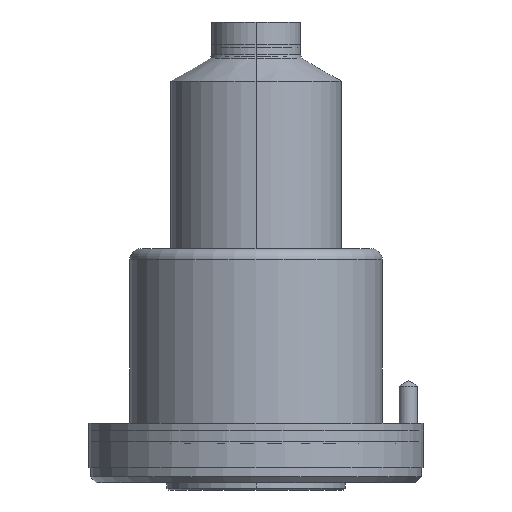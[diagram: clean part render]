
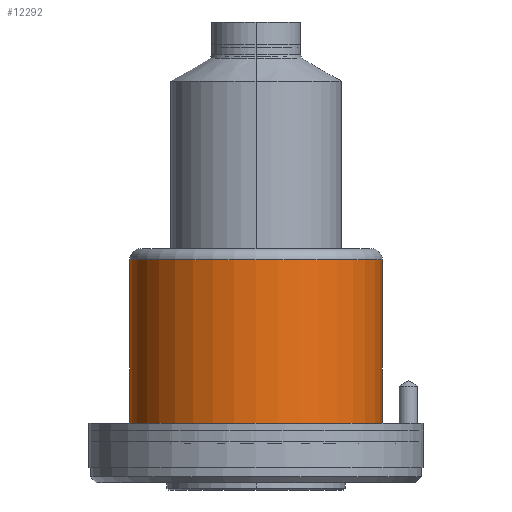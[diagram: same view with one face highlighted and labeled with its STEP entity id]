
A CAD part, front view. The second image highlights one B-rep face of the part: STEP entity #12292.
In plain terms, the highlighted cylindrical face has radius 34 mm (diameter 68 mm), a partial arc.
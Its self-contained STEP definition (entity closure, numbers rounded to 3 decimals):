
#1012 = ORIENTED_EDGE ( 'NONE', *, *, #2671, .F. ) ;
#1013 = ORIENTED_EDGE ( 'NONE', *, *, #2624, .T. ) ;
#1014 = ORIENTED_EDGE ( 'NONE', *, *, #2618, .F. ) ;
#1015 = ORIENTED_EDGE ( 'NONE', *, *, #2672, .T. ) ;
#1087 = EDGE_LOOP ( 'NONE', ( #1014, #1015, #1013, #1012 ) ) ;
#2618 = EDGE_CURVE ( 'NONE', #7388, #7196, #14089, .T. ) ;
#2624 = EDGE_CURVE ( 'NONE', #7381, #7202, #14109, .T. ) ;
#2671 = EDGE_CURVE ( 'NONE', #7196, #7202, #14033, .T. ) ;
#2672 = EDGE_CURVE ( 'NONE', #7388, #7381, #14097, .T. ) ;
#2788 = DIRECTION ( 'NONE',  ( -1., 0., 0. ) ) ;
#2791 = DIRECTION ( 'NONE',  ( 0., 0., -1. ) ) ;
#2792 = CARTESIAN_POINT ( 'NONE',  ( 0., 0., 0. ) ) ;
#4317 = AXIS2_PLACEMENT_3D ( 'NONE', #8209, #8210, #8211 ) ;
#4319 = AXIS2_PLACEMENT_3D ( 'NONE', #8233, #8234, #8235 ) ;
#6572 = CYLINDRICAL_SURFACE ( 'NONE', #12909, 34. ) ;
#6578 = FACE_OUTER_BOUND ( 'NONE', #1087, .T. ) ;
#7196 = VERTEX_POINT ( 'NONE', #8652 ) ;
#7202 = VERTEX_POINT ( 'NONE', #8673 ) ;
#7381 = VERTEX_POINT ( 'NONE', #7740 ) ;
#7388 = VERTEX_POINT ( 'NONE', #7727 ) ;
#7727 = CARTESIAN_POINT ( 'NONE',  ( 34., 0., 62. ) ) ;
#7740 = CARTESIAN_POINT ( 'NONE',  ( -34., 0., 62. ) ) ;
#8209 = CARTESIAN_POINT ( 'NONE',  ( 0., 0., 62. ) ) ;
#8210 = DIRECTION ( 'NONE',  ( 0., 0., -1. ) ) ;
#8211 = DIRECTION ( 'NONE',  ( -1., 0., 0. ) ) ;
#8233 = CARTESIAN_POINT ( 'NONE',  ( 0., 0., 18. ) ) ;
#8234 = DIRECTION ( 'NONE',  ( 0., 0., -1. ) ) ;
#8235 = DIRECTION ( 'NONE',  ( -1., 0., 0. ) ) ;
#8652 = CARTESIAN_POINT ( 'NONE',  ( 34., 0., 18. ) ) ;
#8673 = CARTESIAN_POINT ( 'NONE',  ( -34., 0., 18. ) ) ;
#10768 = DIRECTION ( 'NONE',  ( 0., 0., -1. ) ) ;
#10918 = CARTESIAN_POINT ( 'NONE',  ( -34., 0., 0. ) ) ;
#11562 = DIRECTION ( 'NONE',  ( 0., 0., -1. ) ) ;
#11569 = CARTESIAN_POINT ( 'NONE',  ( 34., 0., 0. ) ) ;
#12292 = ADVANCED_FACE ( 'NONE', ( #6578 ), #6572, .T. ) ;
#12909 = AXIS2_PLACEMENT_3D ( 'NONE', #2792, #2791, #2788 ) ;
#13969 = VECTOR ( 'NONE', #11562, 1000. ) ;
#14033 = CIRCLE ( 'NONE', #4319, 34. ) ;
#14067 = VECTOR ( 'NONE', #10768, 1000. ) ;
#14089 = LINE ( 'NONE', #11569, #13969 ) ;
#14097 = CIRCLE ( 'NONE', #4317, 34. ) ;
#14109 = LINE ( 'NONE', #10918, #14067 ) ;
